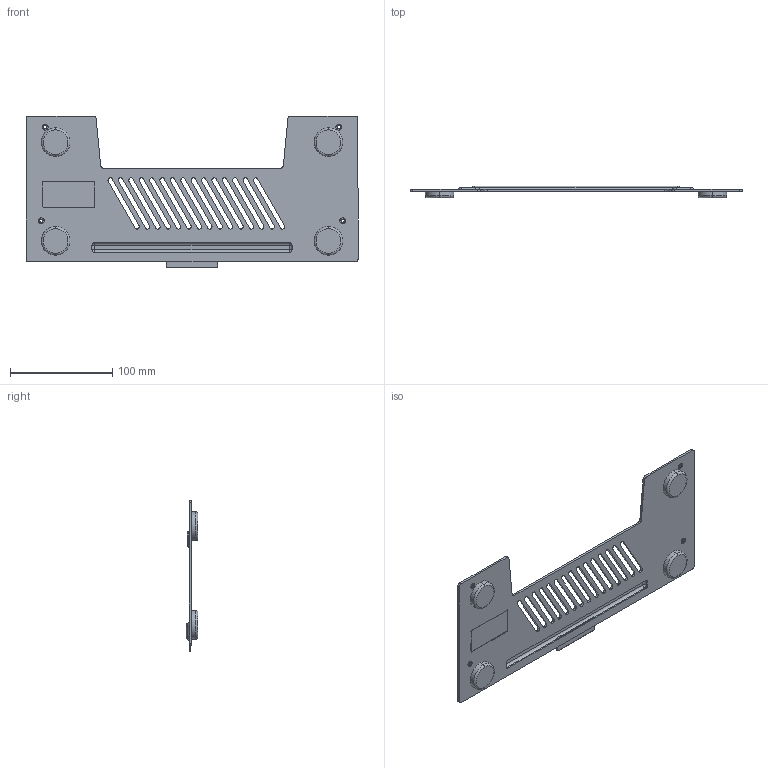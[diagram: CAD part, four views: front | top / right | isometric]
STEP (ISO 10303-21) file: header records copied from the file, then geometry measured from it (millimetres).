
FILE_DESCRIPTION (( 'STEP AP214' ), '1' );
FILE_NAME ('bott_plate.STEP', '2021-10-25T14:20:00', ( '' ), ( '' ), 'SwSTEP 2.0', 'SolidWorks 2010', '' );
FILE_SCHEMA (( 'AUTOMOTIVE_DESIGN' ));
Length unit declared in the file: inch
Products named in the file (1): bott_plate
Bounding box: 324.61 x 11.56 x 148.23 mm (x, y, z)
Volume: 79199 mm3; surface area: 78573.2 mm2
Topology: 2 solids, 2 shells, 247 faces, 622 edges, 392 vertices
Faces by surface type: cylinder 124, plane 79, torus 40, sphere 4
Entity records: 7587 total; most frequent: DIRECTION 1424, CARTESIAN_POINT 1282, ORIENTED_EDGE 1236, EDGE_CURVE 618, AXIS2_PLACEMENT_3D 562, VERTEX_POINT 392, CIRCLE 314, EDGE_LOOP 302
